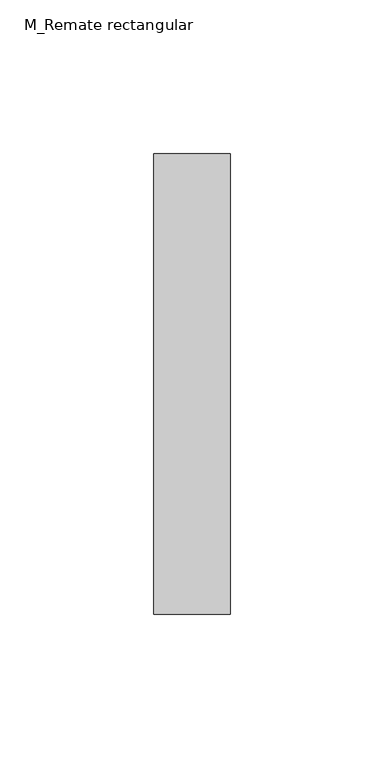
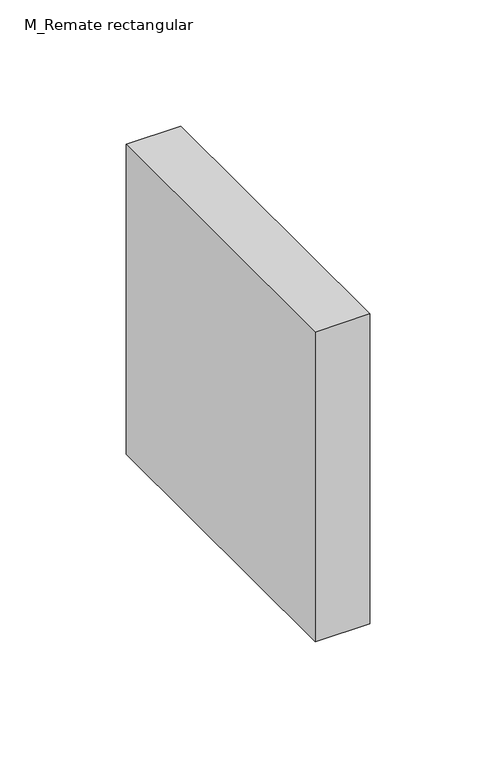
"""IFC4 building model written with IfcOpenShell, lengths in millimetres: duct fitting geometry, M_Remate rectangular : Estándar."""

from ifc_helpers import new_model, si_unit, frame, origin, place, context, project, spatial, polyline, outline, extrude, source, transform, mapped, element, save


def m_remate_rectangular_dade5982(model_context):
    return source(origin(), model_context, "Body", "SweptSolid", [
        extrude(outline(polyline([(0.0, -75.0), (0.0, 75.0), (25.0, 75.0), (25.0, -75.0), (0.0, -75.0)])), frame((0.0, 0.0, -75.0), z_axis=(0.0, 0.0, 1.0), x_axis=(1.0, 0.0, 0.0)), (0.0, 0.0, 1.0), 150.0),
    ])


if __name__ == "__main__":
    model = new_model("IFC4")
    model_context = context("Model", 3, world=origin())
    ifc_project = project(units=[si_unit("LENGTHUNIT", "METRE", prefix="MILLI")], contexts=[model_context])
    site = spatial("IfcSite", under=ifc_project)
    building = spatial("IfcBuilding", under=site)
    placement = place(None, origin())
    m_remate_rectangular_shape = m_remate_rectangular_dade5982(model_context)
    element("IfcDuctFitting", 1, ObjectType="M_Remate rectangular : Estándar", at=placement, inside=building, context=model_context, shape_type="MappedRepresentation", body=[
        mapped(m_remate_rectangular_shape, transform((0.0, 0.0, 0.0), x_axis=(1.0, 0.0, 0.0), y_axis=(0.0, 1.0, 0.0), z_axis=(0.0, 0.0, 1.0))),
    ])
    save(model, "model.ifc")
